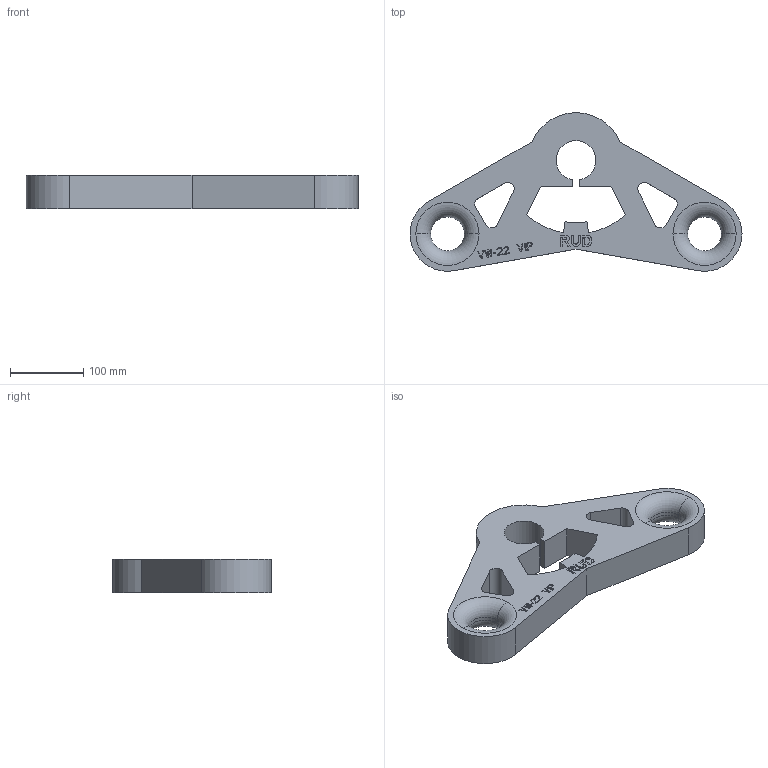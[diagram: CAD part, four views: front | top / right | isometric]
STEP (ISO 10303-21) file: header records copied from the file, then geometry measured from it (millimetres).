
FILE_DESCRIPTION((''),'2;1');
FILE_NAME('001-M34962-P-1','2015-05-18T',('Andreas.Wendler'),(''),'PRO/ENGINEER BY PARAMETRIC TECHNOLOGY CORPORATION, 2010140','PRO/ENGINEER BY PARAMETRIC TECHNOLOGY CORPORATION, 2010140','');
FILE_SCHEMA(('CONFIG_CONTROL_DESIGN'));
Length unit declared in the file: millimetre
Products named in the file (1): 001-M34962-P-1
Bounding box: 452 x 216 x 45 mm (x, y, z)
Volume: 1958890.7 mm3; surface area: 187337.5 mm2
Topology: 1 solids, 1 shells, 210 faces, 580 edges, 384 vertices
Faces by surface type: plane 176, cylinder 26, torus 8
Entity records: 6666 total; most frequent: CARTESIAN_POINT 1174, ORIENTED_EDGE 1160, DIRECTION 1068, EDGE_CURVE 580, VECTOR 512, LINE 512, VERTEX_POINT 384, AXIS2_PLACEMENT_3D 278
